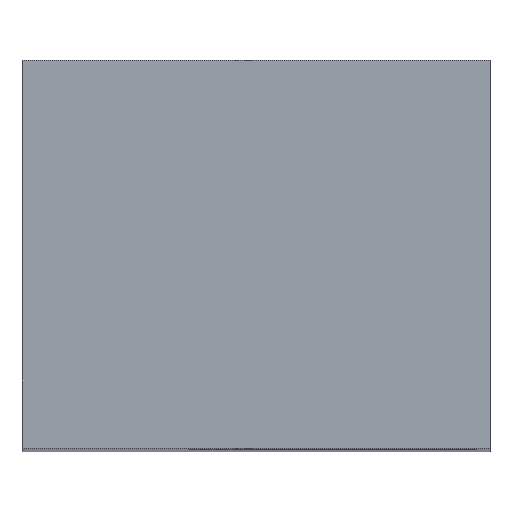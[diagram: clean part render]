
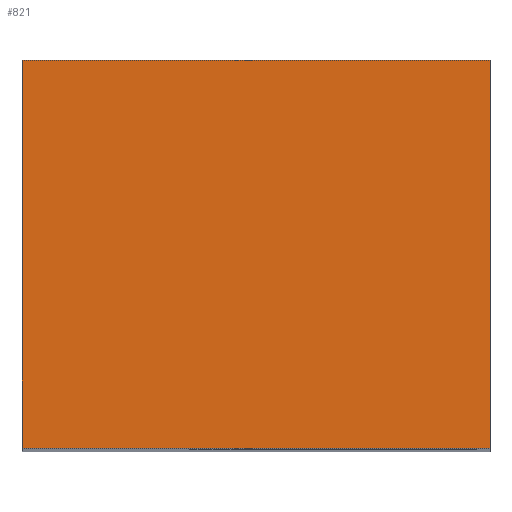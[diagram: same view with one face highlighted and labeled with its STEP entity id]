
A CAD part, top view. The second image highlights one B-rep face of the part: STEP entity #821.
In plain terms, the highlighted planar face has unit normal (0, 0, 1).
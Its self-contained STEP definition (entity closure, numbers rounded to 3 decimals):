
#251=CARTESIAN_POINT('Vertex',(-17.5,-20.,18.)) ;
#267=CARTESIAN_POINT('Vertex',(17.5,-20.,18.)) ;
#270=CARTESIAN_POINT('Line Origine',(0.,-20.,18.)) ;
#417=CARTESIAN_POINT('Vertex',(-17.5,9.,18.)) ;
#444=CARTESIAN_POINT('Line Origine',(-17.5,-5.5,18.)) ;
#541=CARTESIAN_POINT('Vertex',(17.5,9.,18.)) ;
#544=CARTESIAN_POINT('Line Origine',(17.5,-5.5,18.)) ;
#805=CARTESIAN_POINT('Axis2P3D Location',(17.5,-20.,18.)) ;
#810=CARTESIAN_POINT('Line Origine',(0.,9.,18.)) ;
#271=DIRECTION('Vector Direction',(-1.,0.,0.)) ;
#445=DIRECTION('Vector Direction',(0.,-1.,0.)) ;
#545=DIRECTION('Vector Direction',(0.,-1.,0.)) ;
#806=DIRECTION('Axis2P3D Direction',(0.,0.,-1.)) ;
#807=DIRECTION('Axis2P3D XDirection',(0.,1.,0.)) ;
#811=DIRECTION('Vector Direction',(-1.,0.,0.)) ;
#808=AXIS2_PLACEMENT_3D('Plane Axis2P3D',#805,#806,#807) ;
#816=ORIENTED_EDGE('',*,*,#448,.T.) ;
#817=ORIENTED_EDGE('',*,*,#274,.F.) ;
#818=ORIENTED_EDGE('',*,*,#548,.F.) ;
#819=ORIENTED_EDGE('',*,*,#814,.T.) ;
#272=VECTOR('Line Direction',#271,1.) ;
#446=VECTOR('Line Direction',#445,1.) ;
#546=VECTOR('Line Direction',#545,1.) ;
#812=VECTOR('Line Direction',#811,1.) ;
#821=ADVANCED_FACE('Smusso1',(#820),#809,.F.) ;
#274=EDGE_CURVE('',#268,#252,#273,.T.) ;
#448=EDGE_CURVE('',#418,#252,#447,.T.) ;
#548=EDGE_CURVE('',#542,#268,#547,.T.) ;
#814=EDGE_CURVE('',#542,#418,#813,.T.) ;
#815=EDGE_LOOP('',(#816,#817,#818,#819)) ;
#820=FACE_OUTER_BOUND('',#815,.T.) ;
#273=LINE('Line',#270,#272) ;
#447=LINE('Line',#444,#446) ;
#547=LINE('Line',#544,#546) ;
#813=LINE('Line',#810,#812) ;
#809=PLANE('Plane',#808) ;
#252=VERTEX_POINT('',#251) ;
#268=VERTEX_POINT('',#267) ;
#418=VERTEX_POINT('',#417) ;
#542=VERTEX_POINT('',#541) ;
